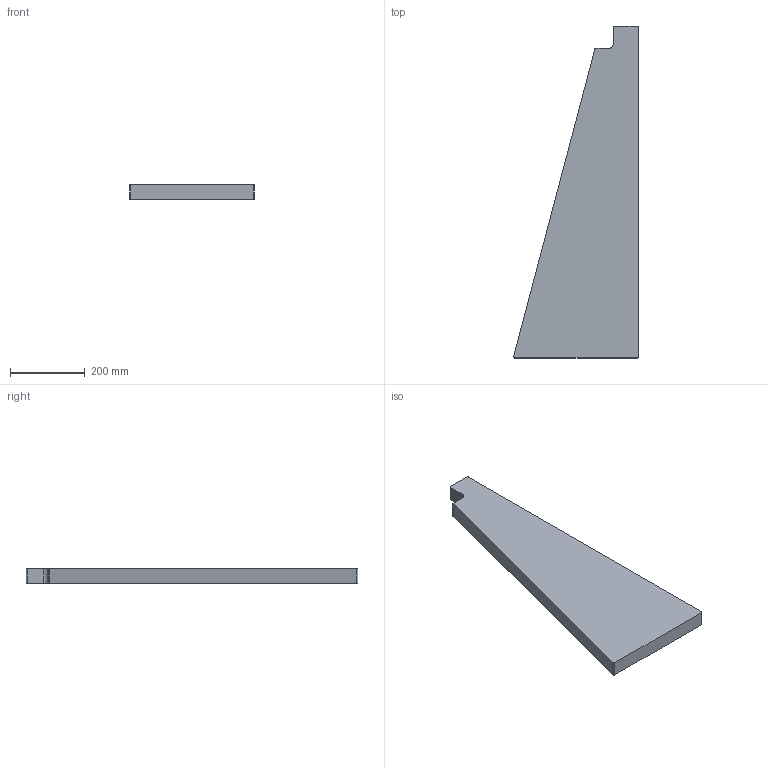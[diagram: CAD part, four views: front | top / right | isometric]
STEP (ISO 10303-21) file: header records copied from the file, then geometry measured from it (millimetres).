
FILE_DESCRIPTION(/* description */ (''),/* implementation_level */ '2;1');
FILE_NAME(/* name */ 'Pos108-Hout D= 40-Hout-3st',/* time_stamp */ '2024-08-06T13:37:43+02:00',/* author */ (''),/* organization */ (''),/* preprocessor_version */ 'ST-DEVELOPER v16.5',/* originating_system */ 'HiCAD 2024 2901.2 Build 361',/* authorisation */ '');
FILE_SCHEMA (('AUTOMOTIVE_DESIGN { 1 0 10303 214 1 1 1 1 }'));
Length unit declared in the file: millimetre
Products named in the file (2): Pos108-Hout D= 40-Hout-3st; Pos0-Antislip-Rubber-0st
Assembly tree (1 placements, depth 2):
  Pos108-Hout D= 40-Hout-3st
    Pos0-Antislip-Rubber-0st
Bounding box: 334.83 x 890 x 40 mm (x, y, z)
Volume: 7669147.5 mm3; surface area: 473395.3 mm2
Topology: 1 solids, 1 shells, 14 faces, 36 edges, 24 vertices
Faces by surface type: plane 8, cylinder 6
Entity records: 836 total; most frequent: DIRECTION 80, CARTESIAN_POINT 76, PRESENTATION_STYLE_ASSIGNMENT 73, COLOUR_RGB 73, DRAUGHTING_PRE_DEFINED_CURVE_FONT 72, CURVE_STYLE 72, OVER_RIDING_STYLED_ITEM 72, ORIENTED_EDGE 72
